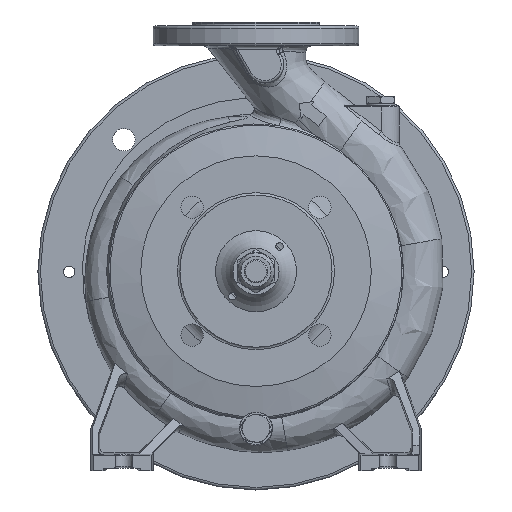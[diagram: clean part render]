
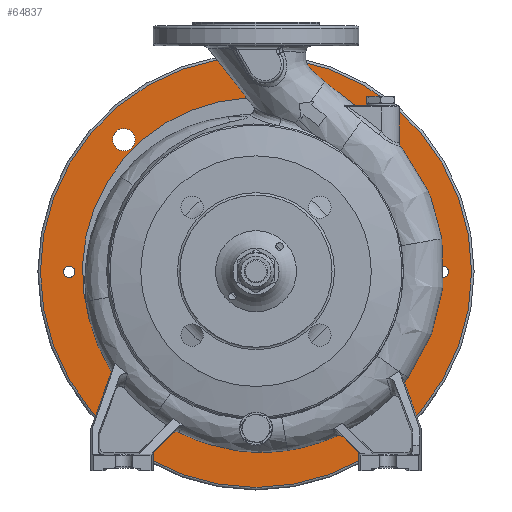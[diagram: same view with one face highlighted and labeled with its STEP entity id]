
A CAD part, top view. The second image highlights one B-rep face of the part: STEP entity #64837.
In plain terms, the highlighted planar face has unit normal (0, 0, 1) as drawn and (-1, 0, 0) by its records, which use the part's own axes.
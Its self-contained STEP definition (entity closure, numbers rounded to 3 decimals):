
#69 = CARTESIAN_POINT ( 'NONE',  ( -20., 106.066, -106.066 ) ) ;
#286 = FACE_BOUND ( 'NONE', #19020, .T. ) ;
#973 = CARTESIAN_POINT ( 'NONE',  ( -20., 0., 0. ) ) ;
#1587 = CARTESIAN_POINT ( 'NONE',  ( -20., 106.066, 115.066 ) ) ;
#1615 = EDGE_CURVE ( 'NONE', #35523, #15891, #75504, .T. ) ;
#1953 = CIRCLE ( 'NONE', #48065, 9. ) ;
#1978 = ORIENTED_EDGE ( 'NONE', *, *, #8660, .T. ) ;
#1997 = VERTEX_POINT ( 'NONE', #53470 ) ;
#3643 = EDGE_CURVE ( 'NONE', #77845, #22600, #65640, .T. ) ;
#3644 = VERTEX_POINT ( 'NONE', #34597 ) ;
#4587 = CARTESIAN_POINT ( 'NONE',  ( -20., 24.969, 128. ) ) ;
#5062 = DIRECTION ( 'NONE',  ( 0., 0., -1. ) ) ;
#5172 = EDGE_CURVE ( 'NONE', #10680, #10680, #8684, .T. ) ;
#5541 = DIRECTION ( 'NONE',  ( -1., 0., 0. ) ) ;
#6131 = EDGE_LOOP ( 'NONE', ( #46551 ) ) ;
#6179 = FACE_BOUND ( 'NONE', #6131, .T. ) ;
#6341 = DIRECTION ( 'NONE',  ( 0., 0., 1. ) ) ;
#6409 = CARTESIAN_POINT ( 'NONE',  ( -20., -25.741, 127.467 ) ) ;
#6880 = EDGE_LOOP ( 'NONE', ( #66164 ) ) ;
#6923 = DIRECTION ( 'NONE',  ( 0., 0., 1. ) ) ;
#7148 = DIRECTION ( 'NONE',  ( -1., 0., 0. ) ) ;
#7456 = ORIENTED_EDGE ( 'NONE', *, *, #43569, .F. ) ;
#8660 = EDGE_CURVE ( 'NONE', #80552, #77845, #27560, .T. ) ;
#8675 = VERTEX_POINT ( 'NONE', #30632 ) ;
#8684 = CIRCLE ( 'NONE', #32573, 4.6 ) ;
#9402 = AXIS2_PLACEMENT_3D ( 'NONE', #73532, #61189, #5062 ) ;
#9452 = ORIENTED_EDGE ( 'NONE', *, *, #51076, .T. ) ;
#10578 = EDGE_CURVE ( 'NONE', #29319, #29319, #1953, .T. ) ;
#10598 = CARTESIAN_POINT ( 'NONE',  ( -20., 26.196, 127.333 ) ) ;
#10631 = CARTESIAN_POINT ( 'NONE',  ( -20., -106.066, 115.066 ) ) ;
#10680 = VERTEX_POINT ( 'NONE', #53882 ) ;
#11127 = CARTESIAN_POINT ( 'NONE',  ( -20., 25.333, 127.694 ) ) ;
#11556 = VERTEX_POINT ( 'NONE', #1587 ) ;
#12678 = DIRECTION ( 'NONE',  ( -1., 0., 0. ) ) ;
#12695 = CARTESIAN_POINT ( 'NONE',  ( -20., -25.964, 127.381 ) ) ;
#12962 = CARTESIAN_POINT ( 'NONE',  ( -20., -24.969, 128. ) ) ;
#13966 = DIRECTION ( 'NONE',  ( -1., 0., 0. ) ) ;
#14271 = DIRECTION ( 'NONE',  ( 0., 0., 1. ) ) ;
#14277 = AXIS2_PLACEMENT_3D ( 'NONE', #973, #37961, #31919 ) ;
#15891 = VERTEX_POINT ( 'NONE', #10598 ) ;
#16682 = AXIS2_PLACEMENT_3D ( 'NONE', #72908, #60569, #79467 ) ;
#17118 = CIRCLE ( 'NONE', #28446, 9. ) ;
#18464 = ORIENTED_EDGE ( 'NONE', *, *, #1615, .T. ) ;
#18932 = DIRECTION ( 'NONE',  ( 0., 0., 1. ) ) ;
#19020 = EDGE_LOOP ( 'NONE', ( #7456 ) ) ;
#19259 = CARTESIAN_POINT ( 'NONE',  ( -20., -25.329, 127.696 ) ) ;
#22600 = VERTEX_POINT ( 'NONE', #78262 ) ;
#23467 = CARTESIAN_POINT ( 'NONE',  ( -20., 22.716, 128. ) ) ;
#24291 = CARTESIAN_POINT ( 'NONE',  ( -20., 25.963, 127.381 ) ) ;
#24680 = DIRECTION ( 'NONE',  ( -1., 0., 0. ) ) ;
#26023 = DIRECTION ( 'NONE',  ( 0., 0., 1. ) ) ;
#27560 = LINE ( 'NONE', #68127, #42219 ) ;
#27945 = EDGE_CURVE ( 'NONE', #1997, #35523, #72182, .T. ) ;
#27961 = ORIENTED_EDGE ( 'NONE', *, *, #39728, .F. ) ;
#28446 = AXIS2_PLACEMENT_3D ( 'NONE', #32630, #76424, #14271 ) ;
#28549 = EDGE_LOOP ( 'NONE', ( #38466 ) ) ;
#29319 = VERTEX_POINT ( 'NONE', #10631 ) ;
#29499 = CARTESIAN_POINT ( 'NONE',  ( -20., 25.142, 127.837 ) ) ;
#29963 = VECTOR ( 'NONE', #49452, 1000. ) ;
#30632 = CARTESIAN_POINT ( 'NONE',  ( -20., 150., 4.6 ) ) ;
#31336 = EDGE_CURVE ( 'NONE', #8675, #8675, #61691, .T. ) ;
#31919 = DIRECTION ( 'NONE',  ( 0., 0., -1. ) ) ;
#32573 = AXIS2_PLACEMENT_3D ( 'NONE', #70385, #7148, #57218 ) ;
#32630 = CARTESIAN_POINT ( 'NONE',  ( -20., -106.066, -106.066 ) ) ;
#33667 = ORIENTED_EDGE ( 'NONE', *, *, #10578, .F. ) ;
#34597 = CARTESIAN_POINT ( 'NONE',  ( -20., 0., -173. ) ) ;
#34800 = ORIENTED_EDGE ( 'NONE', *, *, #3643, .T. ) ;
#35127 = PLANE ( 'NONE',  #16682 ) ;
#35523 = VERTEX_POINT ( 'NONE', #43116 ) ;
#35556 = FACE_BOUND ( 'NONE', #59418, .T. ) ;
#35781 = CARTESIAN_POINT ( 'NONE',  ( -20., 0., 0. ) ) ;
#36817 = LINE ( 'NONE', #42394, #29963 ) ;
#37492 = EDGE_LOOP ( 'NONE', ( #46082 ) ) ;
#37532 = FACE_BOUND ( 'NONE', #59151, .T. ) ;
#37961 = DIRECTION ( 'NONE',  ( 1., 0., 0. ) ) ;
#38466 = ORIENTED_EDGE ( 'NONE', *, *, #57187, .F. ) ;
#39728 = EDGE_CURVE ( 'NONE', #58539, #58539, #17118, .T. ) ;
#42219 = VECTOR ( 'NONE', #56030, 1000. ) ;
#42394 = CARTESIAN_POINT ( 'NONE',  ( -20., 23.801, 128. ) ) ;
#43116 = CARTESIAN_POINT ( 'NONE',  ( -20., -26.196, 127.333 ) ) ;
#43427 = ORIENTED_EDGE ( 'NONE', *, *, #27945, .T. ) ;
#43569 = EDGE_CURVE ( 'NONE', #11556, #11556, #80426, .T. ) ;
#43785 = VERTEX_POINT ( 'NONE', #48700 ) ;
#44091 = CIRCLE ( 'NONE', #52238, 9. ) ;
#46082 = ORIENTED_EDGE ( 'NONE', *, *, #5172, .F. ) ;
#46274 = FACE_BOUND ( 'NONE', #37492, .T. ) ;
#46551 = ORIENTED_EDGE ( 'NONE', *, *, #80738, .F. ) ;
#48007 = AXIS2_PLACEMENT_3D ( 'NONE', #49823, #12678, #6923 ) ;
#48065 = AXIS2_PLACEMENT_3D ( 'NONE', #57202, #13966, #26023 ) ;
#48700 = CARTESIAN_POINT ( 'NONE',  ( -20., 106.066, -97.066 ) ) ;
#49452 = DIRECTION ( 'NONE',  ( 0., -1., 0. ) ) ;
#49823 = CARTESIAN_POINT ( 'NONE',  ( -20., 150., 0. ) ) ;
#50126 = CARTESIAN_POINT ( 'NONE',  ( -20., -25.142, 127.837 ) ) ;
#51076 = EDGE_CURVE ( 'NONE', #15891, #80552, #65085, .T. ) ;
#51761 = EDGE_CURVE ( 'NONE', #22600, #1997, #36817, .T. ) ;
#52238 = AXIS2_PLACEMENT_3D ( 'NONE', #69, #5541, #18932 ) ;
#52249 = AXIS2_PLACEMENT_3D ( 'NONE', #35781, #62892, #73561 ) ;
#53470 = CARTESIAN_POINT ( 'NONE',  ( -20., -24.969, 128. ) ) ;
#53882 = CARTESIAN_POINT ( 'NONE',  ( -20., -150., 4.6 ) ) ;
#54125 = FACE_BOUND ( 'NONE', #6880, .T. ) ;
#55182 = CARTESIAN_POINT ( 'NONE',  ( -20., 25.745, 127.465 ) ) ;
#56030 = DIRECTION ( 'NONE',  ( 0., -1., 0. ) ) ;
#57187 = EDGE_CURVE ( 'NONE', #3644, #3644, #68804, .T. ) ;
#57202 = CARTESIAN_POINT ( 'NONE',  ( -20., -106.066, 106.066 ) ) ;
#57218 = DIRECTION ( 'NONE',  ( 0., 0., 1. ) ) ;
#58539 = VERTEX_POINT ( 'NONE', #75793 ) ;
#59151 = EDGE_LOOP ( 'NONE', ( #33667 ) ) ;
#59418 = EDGE_LOOP ( 'NONE', ( #18464, #9452, #1978, #34800, #80824, #43427 ) ) ;
#60569 = DIRECTION ( 'NONE',  ( 1., 0., 0. ) ) ;
#61189 = DIRECTION ( 'NONE',  ( 1., 0., 0. ) ) ;
#61525 = CARTESIAN_POINT ( 'NONE',  ( -20., 26.196, 127.333 ) ) ;
#61691 = CIRCLE ( 'NONE', #48007, 4.6 ) ;
#62892 = DIRECTION ( 'NONE',  ( 1., 0., 0. ) ) ;
#63074 = CARTESIAN_POINT ( 'NONE',  ( -20., -26.196, 127.333 ) ) ;
#64837 = ADVANCED_FACE ( 'NONE', ( #46274, #54125, #6179, #70833, #37532, #286, #75702, #35556 ), #35127, .F. ) ;
#65085 = B_SPLINE_CURVE_WITH_KNOTS ( 'NONE', 3,
 ( #61525, #24291, #55182, #11127, #29499, #4587 ),
 .UNSPECIFIED., .F., .F.,
 ( 4, 2, 4 ),
 ( 0., 0.001, 0.001 ),
 .UNSPECIFIED. ) ;
#65640 = CIRCLE ( 'NONE', #9402, 130. ) ;
#66164 = ORIENTED_EDGE ( 'NONE', *, *, #31336, .F. ) ;
#68127 = CARTESIAN_POINT ( 'NONE',  ( -20., 23.801, 128. ) ) ;
#68804 = CIRCLE ( 'NONE', #14277, 173. ) ;
#70385 = CARTESIAN_POINT ( 'NONE',  ( -20., -150., 0. ) ) ;
#70833 = FACE_BOUND ( 'NONE', #71030, .T. ) ;
#71030 = EDGE_LOOP ( 'NONE', ( #27961 ) ) ;
#72182 = B_SPLINE_CURVE_WITH_KNOTS ( 'NONE', 3,
 ( #12962, #50126, #19259, #6409, #12695, #63074 ),
 .UNSPECIFIED., .F., .F.,
 ( 4, 2, 4 ),
 ( 0., 0.001, 0.001 ),
 .UNSPECIFIED. ) ;
#72908 = CARTESIAN_POINT ( 'NONE',  ( -20., 0., -130. ) ) ;
#73532 = CARTESIAN_POINT ( 'NONE',  ( -20., 0., 0. ) ) ;
#73561 = DIRECTION ( 'NONE',  ( 0., 0., -1. ) ) ;
#73730 = CARTESIAN_POINT ( 'NONE',  ( -20., 24.969, 128. ) ) ;
#75504 = CIRCLE ( 'NONE', #52249, 130. ) ;
#75596 = CARTESIAN_POINT ( 'NONE',  ( -20., 106.066, 106.066 ) ) ;
#75702 = FACE_OUTER_BOUND ( 'NONE', #28549, .T. ) ;
#75793 = CARTESIAN_POINT ( 'NONE',  ( -20., -106.066, -97.066 ) ) ;
#76424 = DIRECTION ( 'NONE',  ( -1., 0., 0. ) ) ;
#77845 = VERTEX_POINT ( 'NONE', #23467 ) ;
#78262 = CARTESIAN_POINT ( 'NONE',  ( -20., -22.716, 128. ) ) ;
#79418 = AXIS2_PLACEMENT_3D ( 'NONE', #75596, #24680, #6341 ) ;
#79467 = DIRECTION ( 'NONE',  ( 0., 0., -1. ) ) ;
#80426 = CIRCLE ( 'NONE', #79418, 9. ) ;
#80552 = VERTEX_POINT ( 'NONE', #73730 ) ;
#80738 = EDGE_CURVE ( 'NONE', #43785, #43785, #44091, .T. ) ;
#80824 = ORIENTED_EDGE ( 'NONE', *, *, #51761, .T. ) ;
